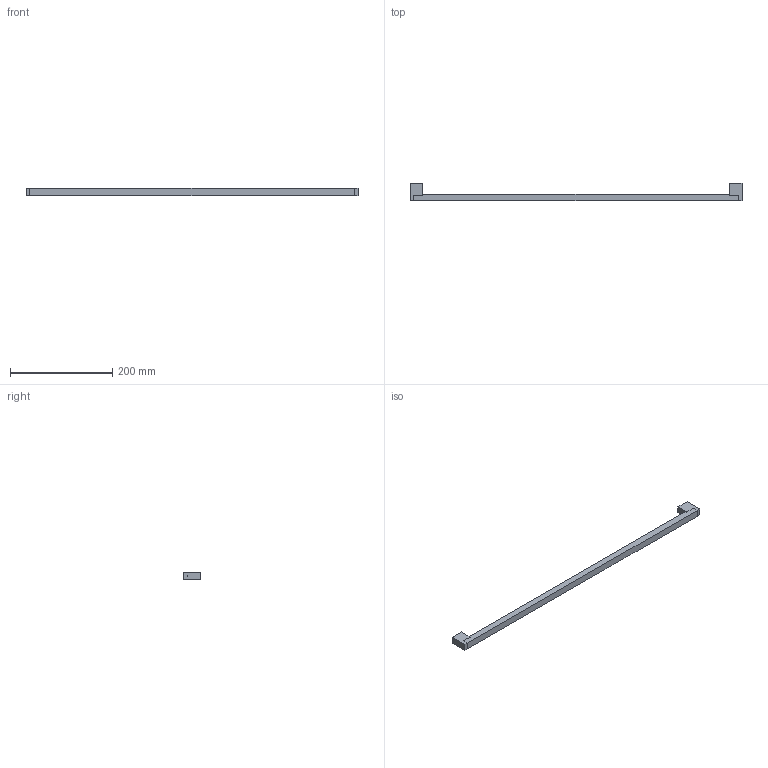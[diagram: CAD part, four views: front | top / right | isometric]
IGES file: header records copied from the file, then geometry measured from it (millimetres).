
Start section: Data from Parasolid IGES Translator 15.0.47, Copyright(c) 2006 Siemens P LM Software. All Rights Reserved.
Global section: file name: 9071755.igs; native system:  By UGS Corp.; preprocessor: XPlus GENERIC/IGES 3.0; author: Noname; organization: Noname; date: 20140122.182009; units: millimetre
Bounding box: 648 x 35 x 14 mm (x, y, z)
Surface area: 39049.4 mm2 (no closed solid volume)
Topology: 0 solids, 0 shells, 42 faces, 228 edges, 226 vertices
Faces by surface type: extrusion 40, revolution 2
